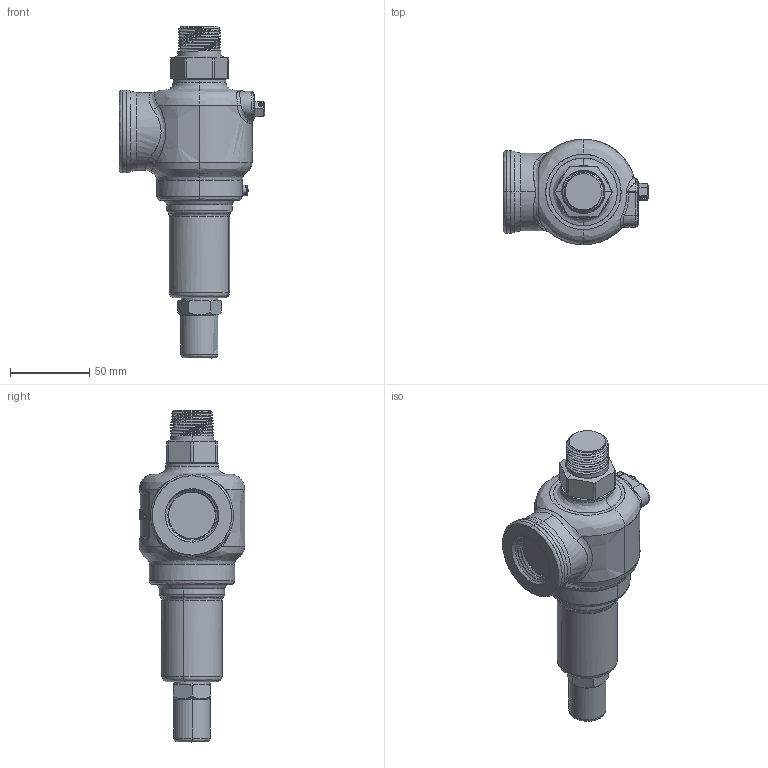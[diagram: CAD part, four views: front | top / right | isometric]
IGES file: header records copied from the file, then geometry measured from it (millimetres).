
Start section: SolidWorks IGES file using NURBS representation for surfaces
Global section: file name: C:\Design\Design\Aquatrol\Customer 3D Files\Series 740 Customer Files\E Orifice\Customer\Iges Files\Series 740 E 750 x 1000 Closed Cap.IGS; native system: SolidWorks 2015; preprocessor: SolidWorks 2015; author: Karl; date: 150515.102159; units: inch
Bounding box: 92.19 x 66.67 x 209.99 mm (x, y, z)
Surface area: 39785.4 mm2 (no closed solid volume)
Topology: 0 solids, 0 shells, 330 faces, 6365 edges, 6365 vertices
Faces by surface type: bspline 330
